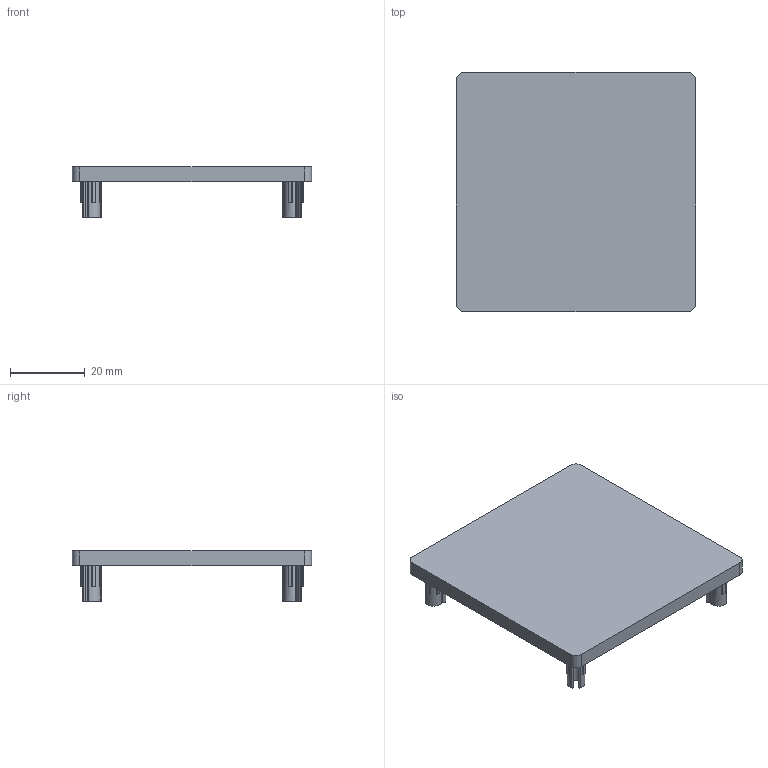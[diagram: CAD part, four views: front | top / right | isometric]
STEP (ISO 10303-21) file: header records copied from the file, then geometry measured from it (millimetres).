
FILE_DESCRIPTION (( 'STEP AP214' ), '1' );
FILE_NAME ('FBEC 64.step', '2017-04-05T08:01:02', ( '' ), ( '' ), 'SwSTEP 2.0', 'SolidWorks 2015', '' );
FILE_SCHEMA (( 'AUTOMOTIVE_DESIGN' ));
Length unit declared in the file: millimetre
Products named in the file (1): FBEC 64
Bounding box: 64 x 64 x 13.5 mm (x, y, z)
Volume: 11601.3 mm3; surface area: 10726.1 mm2
Topology: 1 solids, 1 shells, 213 faces, 615 edges, 410 vertices
Faces by surface type: cylinder 117, plane 96
Entity records: 7149 total; most frequent: DIRECTION 1309, CARTESIAN_POINT 1239, ORIENTED_EDGE 1230, EDGE_CURVE 615, AXIS2_PLACEMENT_3D 480, VERTEX_POINT 410, VECTOR 349, LINE 349
